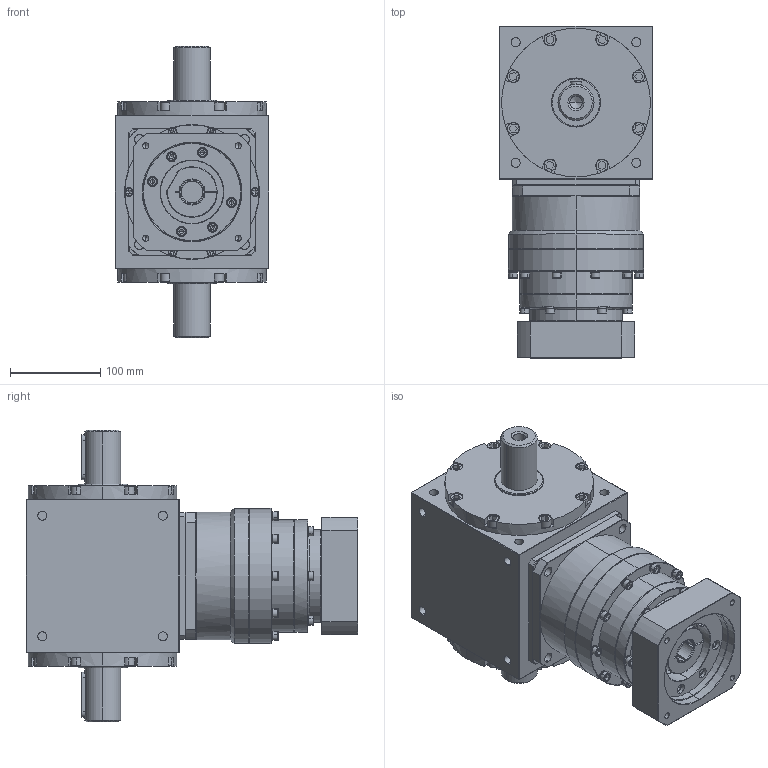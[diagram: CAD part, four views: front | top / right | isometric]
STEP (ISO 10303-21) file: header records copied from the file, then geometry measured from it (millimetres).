
FILE_DESCRIPTION (( 'STEP AP203' ), '1' );
FILE_NAME ('AT170-FL-L2 24-110-145-M8.STEP', '2024-12-26T02:54:05', ( '' ), ( '' ), 'SwSTEP 2.0', 'SolidWorks 2021', '' );
FILE_SCHEMA (( 'CONFIG_CONTROL_DESIGN' ));
Length unit declared in the file: millimetre
Products named in the file (3): AT170-FL-L2 24-110-145-M8; AT170-FL; KS142L2-110-24-62-M8-145俋倛芞
Assembly tree (2 placements, depth 2):
  AT170-FL-L2 24-110-145-M8
    AT170-FL
    KS142L2-110-24-62-M8-145俋倛芞
Bounding box: 170 x 368.5 x 324 mm (x, y, z)
Volume: 8398285.2 mm3; surface area: 516636.5 mm2
Topology: 52 solids, 52 shells, 1615 faces, 3910 edges, 2429 vertices
Faces by surface type: plane 790, cylinder 554, cone 221, bspline 50
Entity records: 47957 total; most frequent: CARTESIAN_POINT 10178, DIRECTION 8080, ORIENTED_EDGE 7648, EDGE_CURVE 3824, AXIS2_PLACEMENT_3D 3053, VERTEX_POINT 2429, LINE 1974, VECTOR 1974
